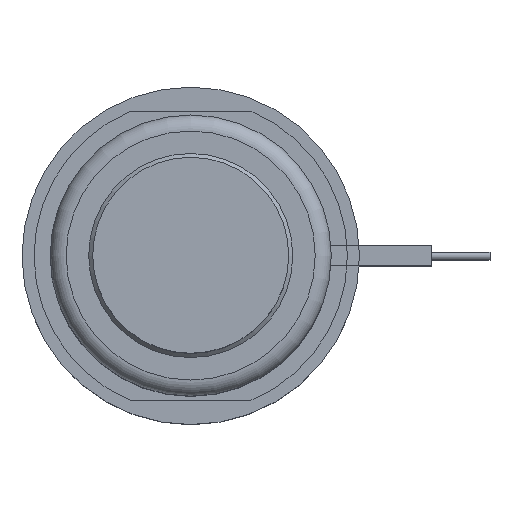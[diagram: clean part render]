
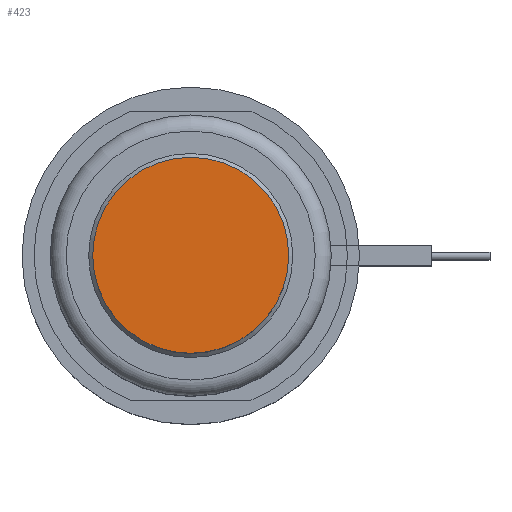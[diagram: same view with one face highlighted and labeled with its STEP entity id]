
A CAD part, top view. The second image highlights one B-rep face of the part: STEP entity #423.
In plain terms, the highlighted planar face has unit normal (0, 0, 1).
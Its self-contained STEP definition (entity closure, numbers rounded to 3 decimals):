
#260=PLANE('',#1450);
#324=FACE_OUTER_BOUND('',#673,.T.);
#423=ADVANCED_FACE('',(#324),#260,.F.);
#673=EDGE_LOOP('',(#913));
#913=ORIENTED_EDGE('',*,*,#1202,.F.);
#1071=VERTEX_POINT('',#2270);
#1202=EDGE_CURVE('',#1071,#1071,#1304,.T.);
#1304=CIRCLE('',#1449,12.2);
#1449=AXIS2_PLACEMENT_3D('',#2269,#1781,#1782);
#1450=AXIS2_PLACEMENT_3D('',#2271,#1783,#1784);
#1781=DIRECTION('',(0.,0.,-1.));
#1782=DIRECTION('',(-1.,0.,0.));
#1783=DIRECTION('',(0.,0.,-1.));
#1784=DIRECTION('',(-1.,0.,0.));
#2269=CARTESIAN_POINT('',(0.,0.,18.));
#2270=CARTESIAN_POINT('',(-12.2,0.,18.));
#2271=CARTESIAN_POINT('',(0.,0.,18.));
